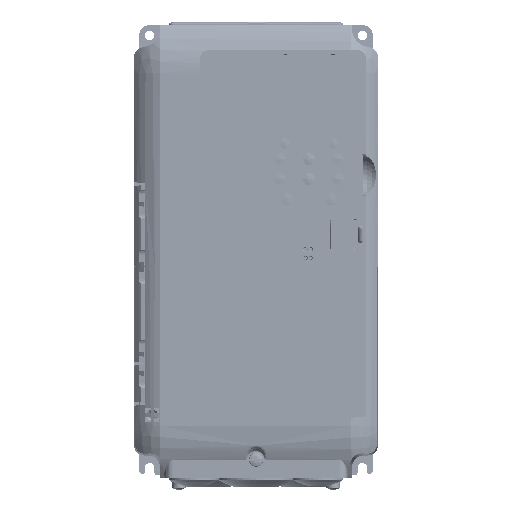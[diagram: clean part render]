
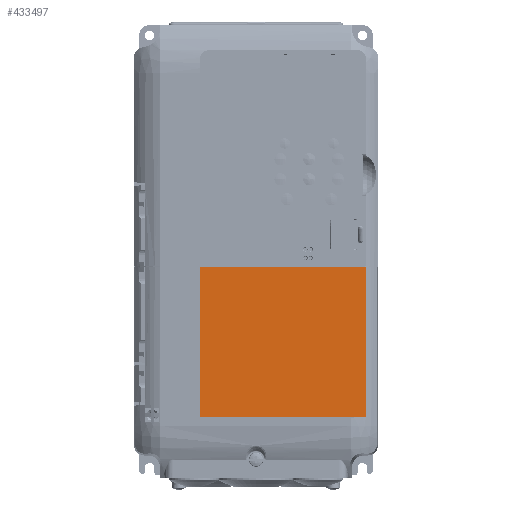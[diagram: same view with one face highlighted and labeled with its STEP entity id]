
A CAD part, top view. The second image highlights one B-rep face of the part: STEP entity #433497.
In plain terms, the highlighted planar face has unit normal (0, 0, 1).
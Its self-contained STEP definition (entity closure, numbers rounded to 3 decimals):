
#411410=DIRECTION('',(1.,0.,0.));
#411411=VECTOR('',#411410,72.);
#411412=CARTESIAN_POINT('',(-32.,-8.963,25.));
#411413=LINE('',#411412,#411411);
#411414=DIRECTION('',(1.,0.,0.));
#411415=VECTOR('',#411414,10.);
#411416=CARTESIAN_POINT('',(40.,-9.031,25.));
#411417=LINE('',#411416,#411415);
#411418=DIRECTION('',(0.,1.,0.));
#411419=VECTOR('',#411418,0.067);
#411420=CARTESIAN_POINT('',(50.,-9.031,25.));
#411421=LINE('',#411420,#411419);
#411422=DIRECTION('',(1.,0.,0.));
#411423=VECTOR('',#411422,13.);
#411424=CARTESIAN_POINT('',(50.,-8.963,25.));
#411425=LINE('',#411424,#411423);
#411426=DIRECTION('',(0.,1.,0.));
#411427=VECTOR('',#411426,86.037);
#411428=CARTESIAN_POINT('',(63.,-95.,25.));
#411429=LINE('',#411428,#411427);
#411430=DIRECTION('',(1.,0.,0.));
#411431=VECTOR('',#411430,95.);
#411432=CARTESIAN_POINT('',(-32.,-95.,25.));
#411433=LINE('',#411432,#411431);
#411442=DIRECTION('',(0.,-1.,0.));
#411443=VECTOR('',#411442,86.037);
#411444=CARTESIAN_POINT('',(-32.,-8.963,25.));
#411445=LINE('',#411444,#411443);
#411496=DIRECTION('',(0.,1.,0.));
#411497=VECTOR('',#411496,0.067);
#411498=CARTESIAN_POINT('',(40.,-9.031,25.));
#411499=LINE('',#411498,#411497);
#413613=CARTESIAN_POINT('',(-32.,-95.,25.));
#413614=CARTESIAN_POINT('',(63.,-95.,25.));
#413615=VERTEX_POINT('',#413613);
#413616=VERTEX_POINT('',#413614);
#415491=CARTESIAN_POINT('',(63.,-8.963,25.));
#415492=VERTEX_POINT('',#415491);
#415829=CARTESIAN_POINT('',(-32.,-8.963,25.));
#415830=VERTEX_POINT('',#415829);
#415831=CARTESIAN_POINT('',(40.,-8.963,25.));
#415832=VERTEX_POINT('',#415831);
#415833=CARTESIAN_POINT('',(40.,-9.031,25.));
#415834=CARTESIAN_POINT('',(50.,-9.031,25.));
#415835=VERTEX_POINT('',#415833);
#415836=VERTEX_POINT('',#415834);
#415837=CARTESIAN_POINT('',(50.,-8.963,25.));
#415838=VERTEX_POINT('',#415837);
#433478=CARTESIAN_POINT('',(0.,0.,25.));
#433479=DIRECTION('',(0.,0.,1.));
#433480=DIRECTION('',(1.,0.,0.));
#433481=AXIS2_PLACEMENT_3D('',#433478,#433479,#433480);
#433482=PLANE('',#433481);
#433484=ORIENTED_EDGE('',*,*,#433483,.F.);
#433485=ORIENTED_EDGE('',*,*,#418891,.T.);
#433487=ORIENTED_EDGE('',*,*,#433486,.F.);
#433488=ORIENTED_EDGE('',*,*,#433232,.T.);
#433489=ORIENTED_EDGE('',*,*,#433472,.T.);
#433490=ORIENTED_EDGE('',*,*,#418871,.T.);
#433492=ORIENTED_EDGE('',*,*,#433491,.F.);
#433494=ORIENTED_EDGE('',*,*,#433493,.F.);
#433495=EDGE_LOOP('',(#433484,#433485,#433487,#433488,#433489,#433490,#433492,
#433494));
#433496=FACE_OUTER_BOUND('',#433495,.F.);
#433497=ADVANCED_FACE('',(#433496),#433482,.T.);
#418871=EDGE_CURVE('',#415838,#415492,#411425,.T.);
#418891=EDGE_CURVE('',#415830,#415832,#411413,.T.);
#433232=EDGE_CURVE('',#415835,#415836,#411417,.T.);
#433472=EDGE_CURVE('',#415836,#415838,#411421,.T.);
#433483=EDGE_CURVE('',#415830,#413615,#411445,.T.);
#433486=EDGE_CURVE('',#415835,#415832,#411499,.T.);
#433491=EDGE_CURVE('',#413616,#415492,#411429,.T.);
#433493=EDGE_CURVE('',#413615,#413616,#411433,.T.);
